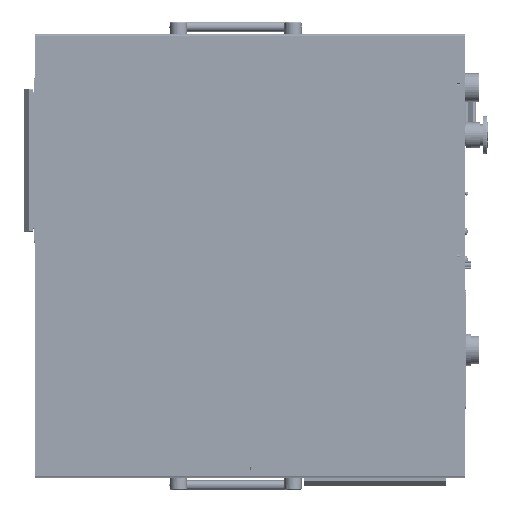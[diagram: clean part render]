
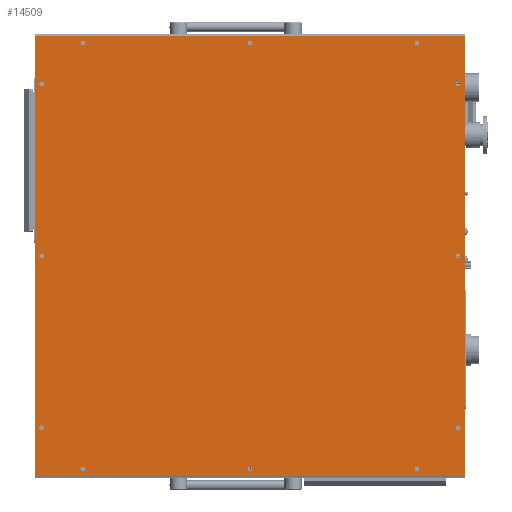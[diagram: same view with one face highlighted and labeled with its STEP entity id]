
A CAD part, top view. The second image highlights one B-rep face of the part: STEP entity #14509.
In plain terms, the highlighted planar face has unit normal (0, 0, 1).
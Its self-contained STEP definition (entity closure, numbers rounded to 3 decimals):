
#8202=FACE_BOUND('',#25716,.T.);
#8203=FACE_BOUND('',#25717,.T.);
#8204=FACE_BOUND('',#25718,.T.);
#8205=FACE_BOUND('',#25719,.T.);
#8206=FACE_BOUND('',#25720,.T.);
#8207=FACE_BOUND('',#25721,.T.);
#8208=FACE_BOUND('',#25722,.T.);
#8209=FACE_BOUND('',#25723,.T.);
#8210=FACE_BOUND('',#25724,.T.);
#8211=FACE_BOUND('',#25725,.T.);
#8212=FACE_BOUND('',#25726,.T.);
#8213=FACE_BOUND('',#25727,.T.);
#8214=FACE_BOUND('',#25728,.T.);
#10765=CIRCLE('',#89158,2.5);
#10766=CIRCLE('',#89159,2.5);
#10767=CIRCLE('',#89160,2.5);
#10768=CIRCLE('',#89161,2.5);
#10769=CIRCLE('',#89162,2.5);
#10770=CIRCLE('',#89163,2.5);
#10771=CIRCLE('',#89164,2.5);
#10772=CIRCLE('',#89165,2.5);
#10773=CIRCLE('',#89166,2.5);
#10774=CIRCLE('',#89167,2.5);
#10775=CIRCLE('',#89168,2.5);
#10776=CIRCLE('',#89169,2.5);
#14509=ADVANCED_FACE('',(#8202,#8203,#8204,#8205,#8206,#8207,#8208,#8209,
#8210,#8211,#8212,#8213,#8214),#17635,.T.);
#17635=PLANE('',#89170);
#25716=EDGE_LOOP('',(#42100));
#25717=EDGE_LOOP('',(#42101));
#25718=EDGE_LOOP('',(#42102));
#25719=EDGE_LOOP('',(#42103));
#25720=EDGE_LOOP('',(#42104));
#25721=EDGE_LOOP('',(#42105));
#25722=EDGE_LOOP('',(#42106));
#25723=EDGE_LOOP('',(#42107));
#25724=EDGE_LOOP('',(#42108));
#25725=EDGE_LOOP('',(#42109,#42110,#42111,#42112));
#25726=EDGE_LOOP('',(#42113));
#25727=EDGE_LOOP('',(#42114));
#25728=EDGE_LOOP('',(#42115));
#42100=ORIENTED_EDGE('',*,*,#65403,.T.);
#42101=ORIENTED_EDGE('',*,*,#65404,.T.);
#42102=ORIENTED_EDGE('',*,*,#65405,.T.);
#42103=ORIENTED_EDGE('',*,*,#65406,.T.);
#42104=ORIENTED_EDGE('',*,*,#65407,.T.);
#42105=ORIENTED_EDGE('',*,*,#65408,.T.);
#42106=ORIENTED_EDGE('',*,*,#65409,.T.);
#42107=ORIENTED_EDGE('',*,*,#65410,.T.);
#42108=ORIENTED_EDGE('',*,*,#65411,.T.);
#42109=ORIENTED_EDGE('',*,*,#65385,.T.);
#42110=ORIENTED_EDGE('',*,*,#65412,.T.);
#42111=ORIENTED_EDGE('',*,*,#65391,.T.);
#42112=ORIENTED_EDGE('',*,*,#65413,.T.);
#42113=ORIENTED_EDGE('',*,*,#65414,.T.);
#42114=ORIENTED_EDGE('',*,*,#65415,.T.);
#42115=ORIENTED_EDGE('',*,*,#65416,.T.);
#55444=VERTEX_POINT('',#154051);
#55445=VERTEX_POINT('',#154053);
#55450=VERTEX_POINT('',#154065);
#55451=VERTEX_POINT('',#154066);
#55462=VERTEX_POINT('',#154090);
#55463=VERTEX_POINT('',#154092);
#55464=VERTEX_POINT('',#154094);
#55465=VERTEX_POINT('',#154096);
#55466=VERTEX_POINT('',#154098);
#55467=VERTEX_POINT('',#154100);
#55468=VERTEX_POINT('',#154102);
#55469=VERTEX_POINT('',#154104);
#55470=VERTEX_POINT('',#154106);
#55471=VERTEX_POINT('',#154110);
#55472=VERTEX_POINT('',#154112);
#55473=VERTEX_POINT('',#154114);
#65385=EDGE_CURVE('',#55445,#55444,#74038,.T.);
#65391=EDGE_CURVE('',#55450,#55451,#74042,.T.);
#65403=EDGE_CURVE('',#55462,#55462,#10765,.T.);
#65404=EDGE_CURVE('',#55463,#55463,#10766,.T.);
#65405=EDGE_CURVE('',#55464,#55464,#10767,.T.);
#65406=EDGE_CURVE('',#55465,#55465,#10768,.T.);
#65407=EDGE_CURVE('',#55466,#55466,#10769,.T.);
#65408=EDGE_CURVE('',#55467,#55467,#10770,.T.);
#65409=EDGE_CURVE('',#55468,#55468,#10771,.T.);
#65410=EDGE_CURVE('',#55469,#55469,#10772,.T.);
#65411=EDGE_CURVE('',#55470,#55470,#10773,.T.);
#65412=EDGE_CURVE('',#55444,#55450,#74050,.T.);
#65413=EDGE_CURVE('',#55451,#55445,#74051,.T.);
#65414=EDGE_CURVE('',#55471,#55471,#10774,.T.);
#65415=EDGE_CURVE('',#55472,#55472,#10775,.T.);
#65416=EDGE_CURVE('',#55473,#55473,#10776,.T.);
#74038=LINE('',#154052,#81401);
#74042=LINE('',#154064,#81405);
#74050=LINE('',#154107,#81413);
#74051=LINE('',#154108,#81414);
#81401=VECTOR('',#105746,1.);
#81405=VECTOR('',#105756,1.);
#81413=VECTOR('',#105792,1.);
#81414=VECTOR('',#105793,1.);
#89158=AXIS2_PLACEMENT_3D('',#154089,#105774,#105775);
#89159=AXIS2_PLACEMENT_3D('',#154091,#105776,#105777);
#89160=AXIS2_PLACEMENT_3D('',#154093,#105778,#105779);
#89161=AXIS2_PLACEMENT_3D('',#154095,#105780,#105781);
#89162=AXIS2_PLACEMENT_3D('',#154097,#105782,#105783);
#89163=AXIS2_PLACEMENT_3D('',#154099,#105784,#105785);
#89164=AXIS2_PLACEMENT_3D('',#154101,#105786,#105787);
#89165=AXIS2_PLACEMENT_3D('',#154103,#105788,#105789);
#89166=AXIS2_PLACEMENT_3D('',#154105,#105790,#105791);
#89167=AXIS2_PLACEMENT_3D('',#154109,#105794,#105795);
#89168=AXIS2_PLACEMENT_3D('',#154111,#105796,#105797);
#89169=AXIS2_PLACEMENT_3D('',#154113,#105798,#105799);
#89170=AXIS2_PLACEMENT_3D('',#154115,#105800,#105801);
#105746=DIRECTION('',(0.,-1.,0.));
#105756=DIRECTION('',(0.,1.,0.));
#105774=DIRECTION('',(0.,0.,-1.));
#105775=DIRECTION('',(-1.,0.,0.));
#105776=DIRECTION('',(0.,0.,-1.));
#105777=DIRECTION('',(-1.,0.,0.));
#105778=DIRECTION('',(0.,0.,-1.));
#105779=DIRECTION('',(-1.,0.,0.));
#105780=DIRECTION('',(0.,0.,-1.));
#105781=DIRECTION('',(-1.,0.,0.));
#105782=DIRECTION('',(0.,0.,-1.));
#105783=DIRECTION('',(-1.,0.,0.));
#105784=DIRECTION('',(0.,0.,-1.));
#105785=DIRECTION('',(-1.,0.,0.));
#105786=DIRECTION('',(0.,0.,-1.));
#105787=DIRECTION('',(-1.,0.,0.));
#105788=DIRECTION('',(0.,0.,-1.));
#105789=DIRECTION('',(-1.,0.,0.));
#105790=DIRECTION('',(0.,0.,-1.));
#105791=DIRECTION('',(-1.,0.,0.));
#105792=DIRECTION('',(1.,0.,0.));
#105793=DIRECTION('',(-1.,0.,0.));
#105794=DIRECTION('',(0.,0.,-1.));
#105795=DIRECTION('',(-1.,0.,0.));
#105796=DIRECTION('',(0.,0.,-1.));
#105797=DIRECTION('',(-1.,0.,0.));
#105798=DIRECTION('',(0.,0.,-1.));
#105799=DIRECTION('',(-1.,0.,0.));
#105800=DIRECTION('',(0.,0.,1.));
#105801=DIRECTION('',(1.,0.,0.));
#154051=CARTESIAN_POINT('',(0.,-9.8,1.5));
#154052=CARTESIAN_POINT('',(0.,451.,1.5));
#154053=CARTESIAN_POINT('',(0.,450.8,1.5));
#154064=CARTESIAN_POINT('',(450.,0.,1.5));
#154065=CARTESIAN_POINT('',(450.,-9.8,1.5));
#154066=CARTESIAN_POINT('',(450.,450.8,1.5));
#154089=CARTESIAN_POINT('',(7.,40.5,1.5));
#154090=CARTESIAN_POINT('',(4.5,40.5,1.5));
#154091=CARTESIAN_POINT('',(7.,220.5,1.5));
#154092=CARTESIAN_POINT('',(4.5,220.5,1.5));
#154093=CARTESIAN_POINT('',(7.,400.5,1.5));
#154094=CARTESIAN_POINT('',(4.5,400.5,1.5));
#154095=CARTESIAN_POINT('',(50.,443.5,1.5));
#154096=CARTESIAN_POINT('',(47.5,443.5,1.5));
#154097=CARTESIAN_POINT('',(225.,443.5,1.5));
#154098=CARTESIAN_POINT('',(222.5,443.5,1.5));
#154099=CARTESIAN_POINT('',(400.,443.5,1.5));
#154100=CARTESIAN_POINT('',(397.5,443.5,1.5));
#154101=CARTESIAN_POINT('',(443.,40.5,1.5));
#154102=CARTESIAN_POINT('',(440.5,40.5,1.5));
#154103=CARTESIAN_POINT('',(443.,220.5,1.5));
#154104=CARTESIAN_POINT('',(440.5,220.5,1.5));
#154105=CARTESIAN_POINT('',(443.,400.5,1.5));
#154106=CARTESIAN_POINT('',(440.5,400.5,1.5));
#154107=CARTESIAN_POINT('',(0.,-9.8,1.5));
#154108=CARTESIAN_POINT('',(450.,450.8,1.5));
#154109=CARTESIAN_POINT('',(400.,-2.5,1.5));
#154110=CARTESIAN_POINT('',(397.5,-2.5,1.5));
#154111=CARTESIAN_POINT('',(225.,-2.5,1.5));
#154112=CARTESIAN_POINT('',(222.5,-2.5,1.5));
#154113=CARTESIAN_POINT('',(50.,-2.5,1.5));
#154114=CARTESIAN_POINT('',(47.5,-2.5,1.5));
#154115=CARTESIAN_POINT('',(0.,0.,1.5));
